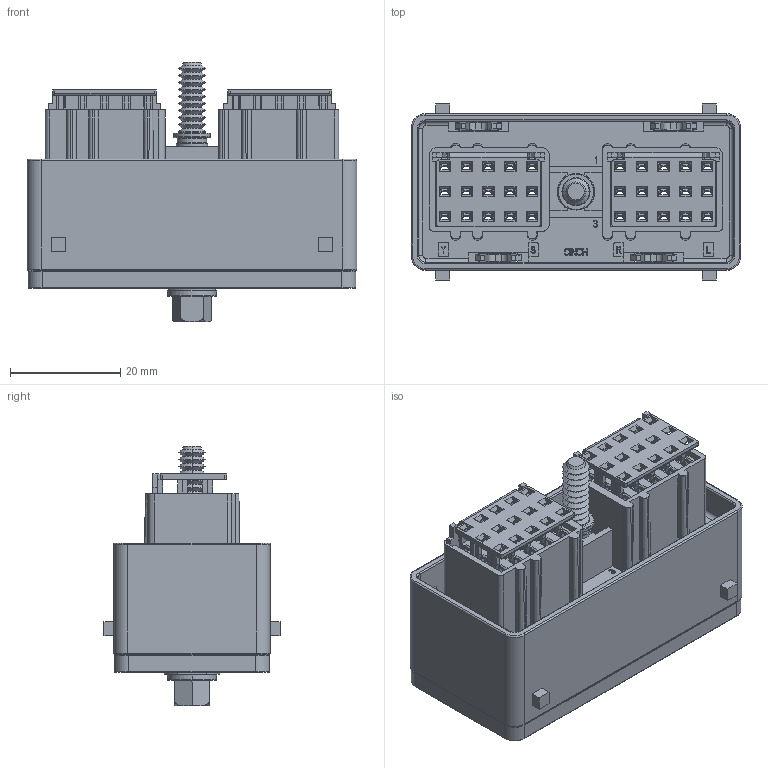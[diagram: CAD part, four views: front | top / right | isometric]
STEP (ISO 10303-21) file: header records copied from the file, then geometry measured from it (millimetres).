
FILE_DESCRIPTION((''),'2;1');
FILE_NAME('5810130028_ASM','2010-02-08T',('r.muscroft'),(''),'PRO/ENGINEER BY PARAMETRIC TECHNOLOGY CORPORATION, 2006240','PRO/ENGINEER BY PARAMETRIC TECHNOLOGY CORPORATION, 2006240','');
FILE_SCHEMA(('CONFIG_CONTROL_DESIGN'));
Products named in the file (2): 5810130028; 5810130028_ASM
Assembly tree (1 placements, depth 2):
  5810130028_ASM
    5810130028
Bounding box: 59.69 x 31.88 x 46.98 mm (x, y, z)
Volume: 29346.4 mm3; surface area: 35441.9 mm2
Topology: 1 solids, 19 shells, 6750 faces, 18030 edges, 11346 vertices
Faces by surface type: plane 4560, cylinder 1060, torus 448, cone 406, sphere 240, bspline 36
Entity records: 255163 total; most frequent: CARTESIAN_POINT 40369, ORIENTED_EDGE 36060, DIRECTION 33282, EDGE_CURVE 18030, VECTOR 14096, LINE 14096, VERTEX_POINT 11346, AXIS2_PLACEMENT_3D 9593
